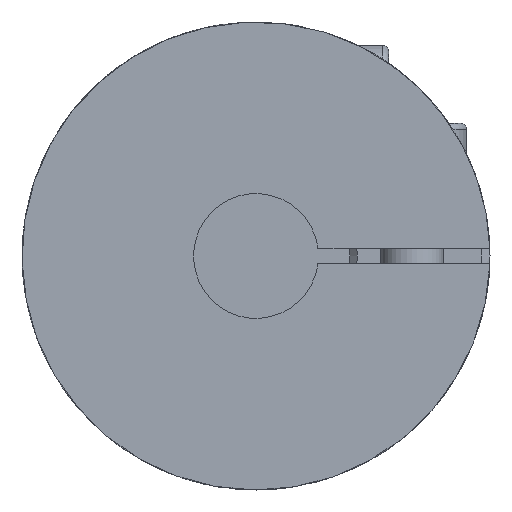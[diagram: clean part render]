
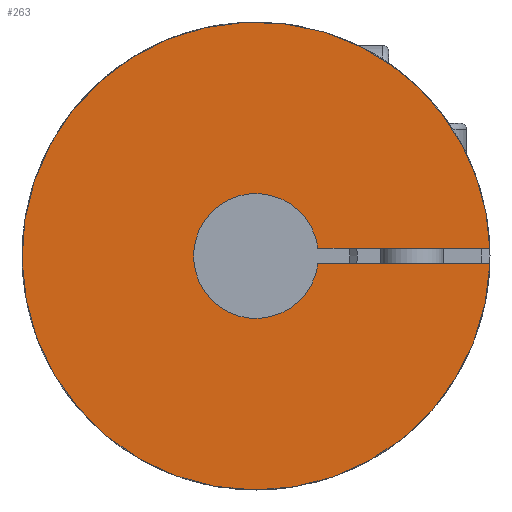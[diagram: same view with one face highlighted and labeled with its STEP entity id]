
A CAD part, left-side view. The second image highlights one B-rep face of the part: STEP entity #263.
In plain terms, the highlighted planar face has unit normal (-1, 0, 0).
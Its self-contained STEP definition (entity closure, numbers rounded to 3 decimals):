
#263 = ADVANCED_FACE( '', ( #604 ), #605, .T. );
#604 = FACE_OUTER_BOUND( '', #1023, .T. );
#605 = PLANE( '', #1024 );
#1023 = EDGE_LOOP( '', ( #1702, #1703, #1704, #1705 ) );
#1024 = AXIS2_PLACEMENT_3D( '', #1706, #1707, #1708 );
#1702 = ORIENTED_EDGE( '', *, *, #2476, .T. );
#1703 = ORIENTED_EDGE( '', *, *, #2547, .F. );
#1704 = ORIENTED_EDGE( '', *, *, #2548, .T. );
#1705 = ORIENTED_EDGE( '', *, *, #2549, .T. );
#1706 = CARTESIAN_POINT( '', ( -12.5, 0., 6. ) );
#1707 = DIRECTION( '', ( -1., 0., 0. ) );
#1708 = DIRECTION( '', ( 0., 0., 1. ) );
#2476 = EDGE_CURVE( '', #2994, #2995, #2996, .T. );
#2547 = EDGE_CURVE( '', #3101, #2995, #3102, .T. );
#2548 = EDGE_CURVE( '', #3101, #3103, #3104, .T. );
#2549 = EDGE_CURVE( '', #3103, #2994, #3105, .T. );
#2994 = VERTEX_POINT( '', #4021 );
#2995 = VERTEX_POINT( '', #4022 );
#2996 = LINE( '', #4023, #4024 );
#3101 = VERTEX_POINT( '', #4161 );
#3102 = CIRCLE( '', #4162, 4. );
#3103 = VERTEX_POINT( '', #4163 );
#3104 = LINE( '', #4164, #4165 );
#3105 = CIRCLE( '', #4166, 15. );
#4021 = CARTESIAN_POINT( '', ( -12.5, -14.992, -0.5 ) );
#4022 = CARTESIAN_POINT( '', ( -12.5, -3.969, -0.5 ) );
#4023 = CARTESIAN_POINT( '', ( -12.5, 0., -0.5 ) );
#4024 = VECTOR( '', #5154, 1000. );
#4161 = CARTESIAN_POINT( '', ( -12.5, -3.969, 0.5 ) );
#4162 = AXIS2_PLACEMENT_3D( '', #5262, #5263, #5264 );
#4163 = CARTESIAN_POINT( '', ( -12.5, -14.992, 0.5 ) );
#4164 = CARTESIAN_POINT( '', ( -12.5, 0., 0.5 ) );
#4165 = VECTOR( '', #5265, 1000. );
#4166 = AXIS2_PLACEMENT_3D( '', #5266, #5267, #5268 );
#5154 = DIRECTION( '', ( 0., 1., 0. ) );
#5262 = CARTESIAN_POINT( '', ( -12.5, 0., 0. ) );
#5263 = DIRECTION( '', ( -1., 0., 0. ) );
#5264 = DIRECTION( '', ( 0., -1., 0. ) );
#5265 = DIRECTION( '', ( 0., -1., 0. ) );
#5266 = CARTESIAN_POINT( '', ( -12.5, 0., 0. ) );
#5267 = DIRECTION( '', ( -1., 0., 0. ) );
#5268 = DIRECTION( '', ( 0., 0., 1. ) );
